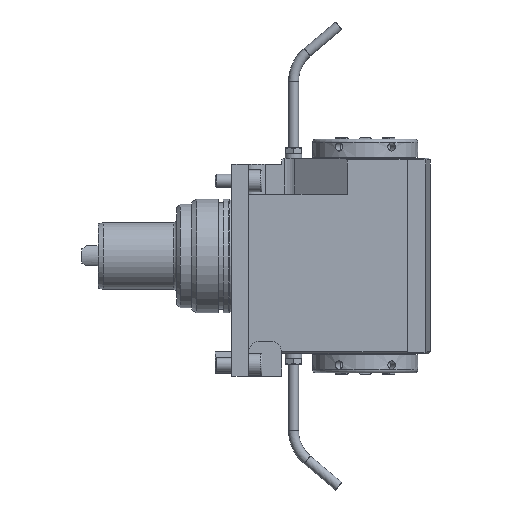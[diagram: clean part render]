
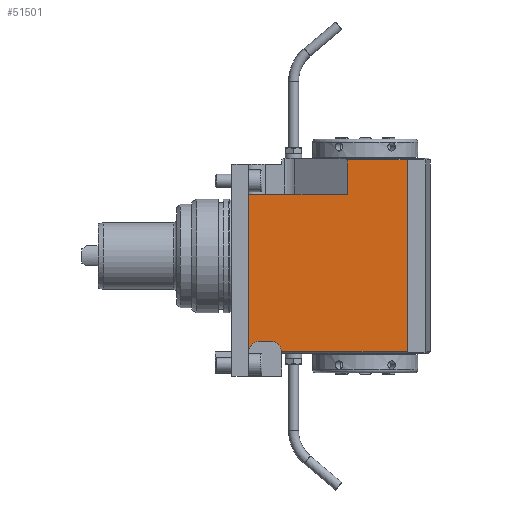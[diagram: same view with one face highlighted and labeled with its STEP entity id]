
A CAD part, front view. The second image highlights one B-rep face of the part: STEP entity #51501.
In plain terms, the highlighted planar face has unit normal (0, -1, 0).
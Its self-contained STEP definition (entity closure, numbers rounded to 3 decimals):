
#19804=VECTOR('',#31435,1.);
#19807=VECTOR('',#31440,1.);
#19808=VECTOR('',#31441,1.);
#19809=VECTOR('',#31442,1.);
#19810=VECTOR('',#31445,1.);
#19811=VECTOR('',#31448,1.);
#19812=VECTOR('',#31449,1.);
#20581=LINE('',#43187,#19804);
#20584=LINE('',#43193,#19807);
#20585=LINE('',#43195,#19808);
#20586=LINE('',#43197,#19809);
#20587=LINE('',#43201,#19810);
#20588=LINE('',#43204,#19811);
#20589=LINE('',#43205,#19812);
#21122=PLANE('',#50160);
#22973=ORIENTED_EDGE('',*,*,#27185,.F.);
#22974=ORIENTED_EDGE('',*,*,#27186,.F.);
#22975=ORIENTED_EDGE('',*,*,#27187,.F.);
#22976=ORIENTED_EDGE('',*,*,#27188,.T.);
#22977=ORIENTED_EDGE('',*,*,#27189,.F.);
#22978=ORIENTED_EDGE('',*,*,#27190,.T.);
#22979=ORIENTED_EDGE('',*,*,#27191,.T.);
#22980=ORIENTED_EDGE('',*,*,#27182,.F.);
#22981=ORIENTED_EDGE('',*,*,#27192,.T.);
#24880=CIRCLE('',#50161,7.);
#24881=CIRCLE('',#50162,7.);
#25769=VERTEX_POINT('',#43185);
#25770=VERTEX_POINT('',#43186);
#25771=VERTEX_POINT('',#43191);
#25772=VERTEX_POINT('',#43192);
#25773=VERTEX_POINT('',#43194);
#25774=VERTEX_POINT('',#43196);
#25775=VERTEX_POINT('',#43198);
#25776=VERTEX_POINT('',#43200);
#25777=VERTEX_POINT('',#43202);
#27182=EDGE_CURVE('',#25769,#25770,#20581,.T.);
#27185=EDGE_CURVE('',#25771,#25772,#20584,.T.);
#27186=EDGE_CURVE('',#25773,#25771,#20585,.T.);
#27187=EDGE_CURVE('',#25774,#25773,#20586,.T.);
#27188=EDGE_CURVE('',#25774,#25775,#24880,.T.);
#27189=EDGE_CURVE('',#25776,#25775,#20587,.T.);
#27190=EDGE_CURVE('',#25776,#25777,#24881,.T.);
#27191=EDGE_CURVE('',#25777,#25770,#20588,.T.);
#27192=EDGE_CURVE('',#25769,#25772,#20589,.T.);
#28319=EDGE_LOOP('',(#22973,#22974,#22975,#22976,#22977,#22978,#22979,#22980,
#22981));
#29306=FACE_BOUND('',#28319,.T.);
#31435=DIRECTION('',(0.,0.,-115.));
#31438=DIRECTION('',(0.,-1.,0.));
#31439=DIRECTION('',(-1.,0.,0.));
#31440=DIRECTION('',(0.,0.,20.5));
#31441=DIRECTION('',(59.276,0.,0.));
#31442=DIRECTION('',(0.,0.,95.));
#31443=DIRECTION('',(0.,1.,0.));
#31444=DIRECTION('',(-7.,0.,0.));
#31445=DIRECTION('',(-6.,0.,0.));
#31446=DIRECTION('',(0.,1.,0.));
#31447=DIRECTION('',(0.,0.,7.));
#31448=DIRECTION('',(75.018,0.,0.));
#31449=DIRECTION('',(-35.724,0.,0.));
#43185=CARTESIAN_POINT('',(105.,-40.,57.5));
#43186=CARTESIAN_POINT('',(105.,-40.,-57.5));
#43187=CARTESIAN_POINT('',(105.,-40.,57.5));
#43190=CARTESIAN_POINT('',(69.276,-40.,37.));
#43191=CARTESIAN_POINT('',(69.276,-40.,37.));
#43192=CARTESIAN_POINT('',(69.276,-40.,57.5));
#43193=CARTESIAN_POINT('',(69.276,-40.,37.));
#43194=CARTESIAN_POINT('',(10.,-40.,37.));
#43195=CARTESIAN_POINT('',(10.,-40.,37.));
#43196=CARTESIAN_POINT('',(10.,-40.,-58.));
#43197=CARTESIAN_POINT('',(10.,-40.,-58.));
#43198=CARTESIAN_POINT('',(17.,-40.,-51.));
#43199=CARTESIAN_POINT('',(17.,-40.,-58.));
#43200=CARTESIAN_POINT('',(23.,-40.,-51.));
#43201=CARTESIAN_POINT('',(23.,-40.,-51.));
#43202=CARTESIAN_POINT('',(29.982,-40.,-57.5));
#43203=CARTESIAN_POINT('',(23.,-40.,-58.));
#43204=CARTESIAN_POINT('',(29.982,-40.,-57.5));
#43205=CARTESIAN_POINT('',(105.,-40.,57.5));
#50160=AXIS2_PLACEMENT_3D('',#43190,#31438,#31439);
#50161=AXIS2_PLACEMENT_3D('',#43199,#31443,#31444);
#50162=AXIS2_PLACEMENT_3D('',#43203,#31446,#31447);
#51501=ADVANCED_FACE('',(#29306),#21122,.T.);
